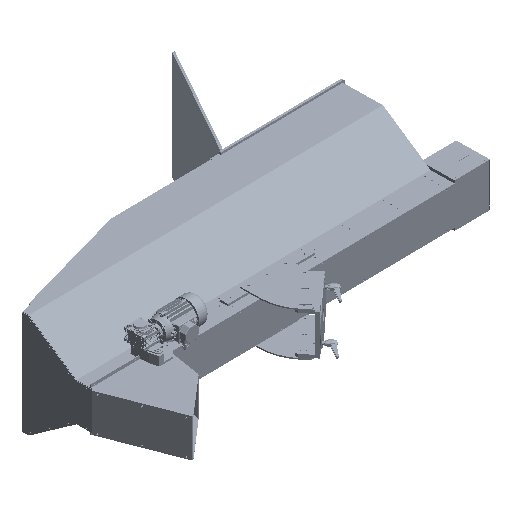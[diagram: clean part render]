
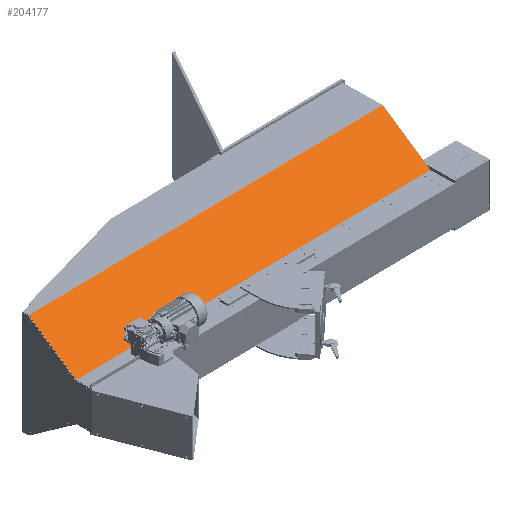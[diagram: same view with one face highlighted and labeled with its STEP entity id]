
A CAD part, isometric view. The second image highlights one B-rep face of the part: STEP entity #204177.
In plain terms, the highlighted planar face has unit normal (0.008, -0.574, 0.819).
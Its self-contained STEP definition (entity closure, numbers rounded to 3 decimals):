
#1942 = DIRECTION ( 'NONE',  ( 1., 0.014, 0. ) ) ;
#3664 = LINE ( 'NONE', #205409, #148172 ) ;
#14213 = ORIENTED_EDGE ( 'NONE', *, *, #201130, .T. ) ;
#18831 = CARTESIAN_POINT ( 'NONE',  ( -158.451, 32.983, 826.1 ) ) ;
#27799 = LINE ( 'NONE', #97924, #178195 ) ;
#31596 = CARTESIAN_POINT ( 'NONE',  ( -161.522, 258.609, 984.1 ) ) ;
#44525 = DIRECTION ( 'NONE',  ( 0.005, 0.819, 0.573 ) ) ;
#45440 = VERTEX_POINT ( 'NONE', #31596 ) ;
#54557 = EDGE_LOOP ( 'NONE', ( #202964, #102024, #71552, #14213 ) ) ;
#69036 = VECTOR ( 'NONE', #75207, 1000. ) ;
#71552 = ORIENTED_EDGE ( 'NONE', *, *, #145185, .T. ) ;
#75207 = DIRECTION ( 'NONE',  ( 0.011, -0.819, -0.574 ) ) ;
#76138 = DIRECTION ( 'NONE',  ( -1., -0.014, 0. ) ) ;
#92385 = VERTEX_POINT ( 'NONE', #184193 ) ;
#95346 = PLANE ( 'NONE',  #219125 ) ;
#97924 = CARTESIAN_POINT ( 'NONE',  ( 1561.39, 56.396, 826.1 ) ) ;
#101492 = DIRECTION ( 'NONE',  ( -0.011, 0.819, 0.574 ) ) ;
#102024 = ORIENTED_EDGE ( 'NONE', *, *, #238875, .T. ) ;
#115866 = CARTESIAN_POINT ( 'NONE',  ( 1569.103, -558.458, 395.541 ) ) ;
#127591 = LINE ( 'NONE', #18831, #149475 ) ;
#133970 = FACE_OUTER_BOUND ( 'NONE', #54557, .T. ) ;
#134296 = CARTESIAN_POINT ( 'NONE',  ( -161.522, 258.609, 984.1 ) ) ;
#137571 = DIRECTION ( 'NONE',  ( 0.008, -0.574, 0.819 ) ) ;
#145185 = EDGE_CURVE ( 'NONE', #156481, #92385, #27799, .T. ) ;
#148172 = VECTOR ( 'NONE', #76138, 1000. ) ;
#149475 = VECTOR ( 'NONE', #1942, 1000. ) ;
#150780 = CARTESIAN_POINT ( 'NONE',  ( -158.451, 32.983, 826.1 ) ) ;
#156481 = VERTEX_POINT ( 'NONE', #210871 ) ;
#178195 = VECTOR ( 'NONE', #101492, 1000. ) ;
#184193 = CARTESIAN_POINT ( 'NONE',  ( 1558.318, 282.023, 984.1 ) ) ;
#186309 = LINE ( 'NONE', #134296, #69036 ) ;
#201130 = EDGE_CURVE ( 'NONE', #92385, #45440, #3664, .T. ) ;
#202964 = ORIENTED_EDGE ( 'NONE', *, *, #205192, .T. ) ;
#204177 = ADVANCED_FACE ( 'NONE', ( #133970 ), #95346, .T. ) ;
#205192 = EDGE_CURVE ( 'NONE', #45440, #231036, #186309, .T. ) ;
#205409 = CARTESIAN_POINT ( 'NONE',  ( 1558.318, 282.023, 984.1 ) ) ;
#210871 = CARTESIAN_POINT ( 'NONE',  ( 1561.39, 56.396, 826.1 ) ) ;
#219125 = AXIS2_PLACEMENT_3D ( 'NONE', #115866, #137571, #44525 ) ;
#231036 = VERTEX_POINT ( 'NONE', #150780 ) ;
#238875 = EDGE_CURVE ( 'NONE', #231036, #156481, #127591, .T. ) ;
